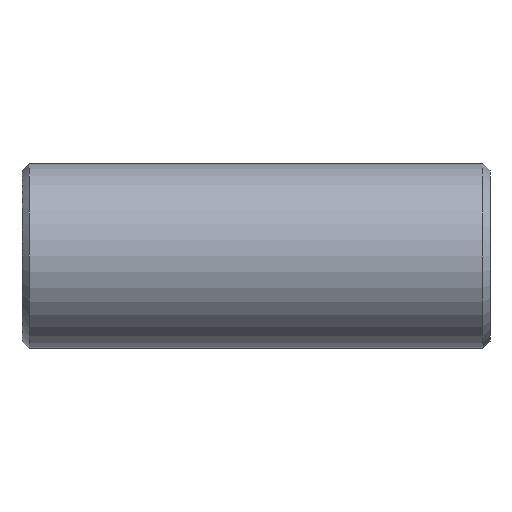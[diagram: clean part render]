
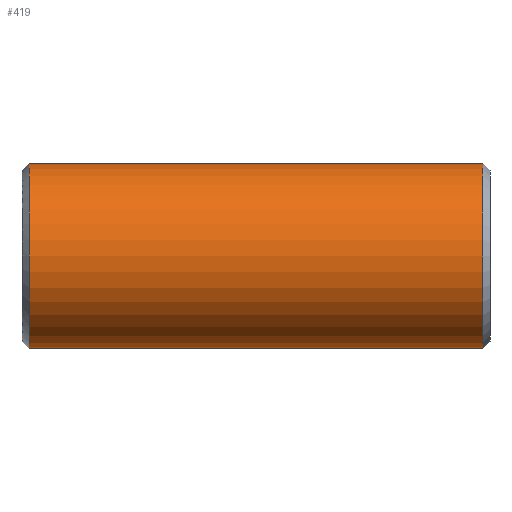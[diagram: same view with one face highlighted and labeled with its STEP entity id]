
A CAD part, front view. The second image highlights one B-rep face of the part: STEP entity #419.
In plain terms, the highlighted cylindrical face has radius 13 mm (diameter 26 mm), a partial arc.
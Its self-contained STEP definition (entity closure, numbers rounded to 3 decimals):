
#231=CARTESIAN_POINT('Vertex',(1.,0.,-13.)) ;
#238=CARTESIAN_POINT('Vertex',(1.,0.,13.)) ;
#267=CARTESIAN_POINT('Axis2P3D Location',(1.,0.,0.)) ;
#271=CARTESIAN_POINT('Vertex',(1.,-13.,0.)) ;
#274=CARTESIAN_POINT('Axis2P3D Location',(1.,0.,0.)) ;
#359=CARTESIAN_POINT('Line Origine',(66.,0.,13.)) ;
#363=CARTESIAN_POINT('Vertex',(65.,0.,13.)) ;
#377=CARTESIAN_POINT('Vertex',(65.,0.,-13.)) ;
#380=CARTESIAN_POINT('Line Origine',(66.,0.,-13.)) ;
#394=CARTESIAN_POINT('Axis2P3D Location',(66.,0.,0.)) ;
#399=CARTESIAN_POINT('Axis2P3D Location',(65.,0.,0.)) ;
#403=CARTESIAN_POINT('Vertex',(65.,-13.,0.)) ;
#406=CARTESIAN_POINT('Axis2P3D Location',(65.,0.,0.)) ;
#268=DIRECTION('Axis2P3D Direction',(1.,0.,-0.)) ;
#275=DIRECTION('Axis2P3D Direction',(1.,0.,-0.)) ;
#360=DIRECTION('Vector Direction',(-1.,0.,0.)) ;
#381=DIRECTION('Vector Direction',(-1.,0.,0.)) ;
#395=DIRECTION('Axis2P3D Direction',(-1.,-0.,-0.)) ;
#396=DIRECTION('Axis2P3D XDirection',(0.,0.,-1.)) ;
#400=DIRECTION('Axis2P3D Direction',(-1.,-0.,-0.)) ;
#407=DIRECTION('Axis2P3D Direction',(-1.,-0.,-0.)) ;
#269=AXIS2_PLACEMENT_3D('Circle Axis2P3D',#267,#268,$) ;
#276=AXIS2_PLACEMENT_3D('Circle Axis2P3D',#274,#275,$) ;
#397=AXIS2_PLACEMENT_3D('Cylinder Axis2P3D',#394,#395,#396) ;
#401=AXIS2_PLACEMENT_3D('Circle Axis2P3D',#399,#400,$) ;
#408=AXIS2_PLACEMENT_3D('Circle Axis2P3D',#406,#407,$) ;
#412=ORIENTED_EDGE('',*,*,#384,.T.) ;
#413=ORIENTED_EDGE('',*,*,#405,.F.) ;
#414=ORIENTED_EDGE('',*,*,#410,.F.) ;
#415=ORIENTED_EDGE('',*,*,#365,.T.) ;
#416=ORIENTED_EDGE('',*,*,#278,.T.) ;
#417=ORIENTED_EDGE('',*,*,#273,.T.) ;
#361=VECTOR('Line Direction',#360,1.) ;
#382=VECTOR('Line Direction',#381,1.) ;
#419=ADVANCED_FACE('352-18X66',(#418),#398,.T.) ;
#270=CIRCLE('generated circle',#269,13.) ;
#277=CIRCLE('generated circle',#276,13.) ;
#402=CIRCLE('generated circle',#401,13.) ;
#409=CIRCLE('generated circle',#408,13.) ;
#398=CYLINDRICAL_SURFACE('generated cylinder',#397,13.) ;
#273=EDGE_CURVE('',#272,#232,#270,.T.) ;
#278=EDGE_CURVE('',#239,#272,#277,.T.) ;
#365=EDGE_CURVE('',#364,#239,#362,.T.) ;
#384=EDGE_CURVE('',#232,#378,#383,.F.) ;
#405=EDGE_CURVE('',#404,#378,#402,.F.) ;
#410=EDGE_CURVE('',#364,#404,#409,.F.) ;
#411=EDGE_LOOP('',(#412,#413,#414,#415,#416,#417)) ;
#418=FACE_OUTER_BOUND('',#411,.T.) ;
#362=LINE('Line',#359,#361) ;
#383=LINE('Line',#380,#382) ;
#232=VERTEX_POINT('',#231) ;
#239=VERTEX_POINT('',#238) ;
#272=VERTEX_POINT('',#271) ;
#364=VERTEX_POINT('',#363) ;
#378=VERTEX_POINT('',#377) ;
#404=VERTEX_POINT('',#403) ;
